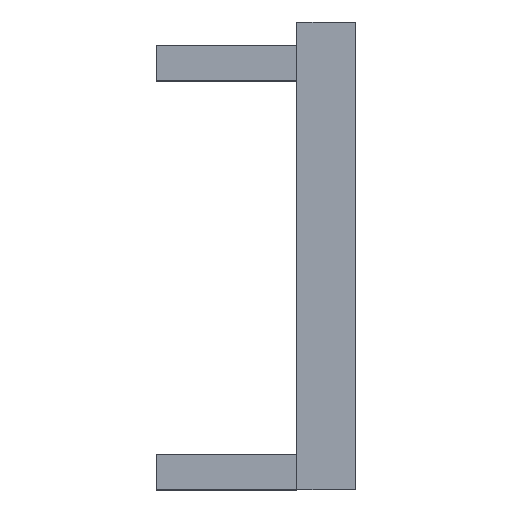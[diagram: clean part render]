
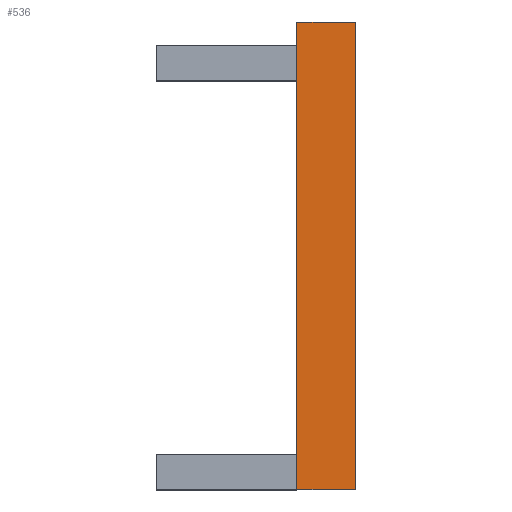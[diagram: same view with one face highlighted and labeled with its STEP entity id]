
A CAD part, top view. The second image highlights one B-rep face of the part: STEP entity #536.
In plain terms, the highlighted planar face has unit normal (0, 0, 1).
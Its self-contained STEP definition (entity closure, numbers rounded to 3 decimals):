
#24 = VERTEX_POINT('',#25);
#25 = CARTESIAN_POINT('',(-10.2,-18.,30.));
#32 = PLANE('',#33);
#33 = AXIS2_PLACEMENT_3D('',#34,#35,#36);
#34 = CARTESIAN_POINT('',(-10.2,-18.,0.));
#35 = DIRECTION('',(-1.,-0.,0.));
#36 = DIRECTION('',(0.,0.,-1.));
#44 = PLANE('',#45);
#45 = AXIS2_PLACEMENT_3D('',#46,#47,#48);
#46 = CARTESIAN_POINT('',(-10.2,-18.,0.));
#47 = DIRECTION('',(-0.,1.,-0.));
#48 = DIRECTION('',(0.,0.,-1.));
#85 = VERTEX_POINT('',#86);
#86 = CARTESIAN_POINT('',(-10.2,22.,30.));
#100 = PLANE('',#101);
#101 = AXIS2_PLACEMENT_3D('',#102,#103,#104);
#102 = CARTESIAN_POINT('',(-10.2,22.,0.));
#103 = DIRECTION('',(-0.,1.,0.));
#104 = DIRECTION('',(0.,0.,-1.));
#112 = EDGE_CURVE('',#24,#85,#113,.T.);
#113 = SURFACE_CURVE('',#114,(#118,#125),.PCURVE_S1.);
#114 = LINE('',#115,#116);
#115 = CARTESIAN_POINT('',(-10.2,-18.,30.));
#116 = VECTOR('',#117,1.);
#117 = DIRECTION('',(-0.,1.,0.));
#118 = PCURVE('',#32,#119);
#119 = DEFINITIONAL_REPRESENTATION('',(#120),#124);
#120 = LINE('',#121,#122);
#121 = CARTESIAN_POINT('',(-30.,-0.));
#122 = VECTOR('',#123,1.);
#123 = DIRECTION('',(-0.,-1.));
#124 = ( GEOMETRIC_REPRESENTATION_CONTEXT(2) 
PARAMETRIC_REPRESENTATION_CONTEXT() REPRESENTATION_CONTEXT('2D SPACE',''
  ) );
#125 = PCURVE('',#126,#131);
#126 = PLANE('',#127);
#127 = AXIS2_PLACEMENT_3D('',#128,#129,#130);
#128 = CARTESIAN_POINT('',(-10.2,-18.,30.));
#129 = DIRECTION('',(0.,0.,1.));
#130 = DIRECTION('',(1.,0.,0.));
#131 = DEFINITIONAL_REPRESENTATION('',(#132),#136);
#132 = LINE('',#133,#134);
#133 = CARTESIAN_POINT('',(0.,-0.));
#134 = VECTOR('',#135,1.);
#135 = DIRECTION('',(-0.,1.));
#136 = ( GEOMETRIC_REPRESENTATION_CONTEXT(2) 
PARAMETRIC_REPRESENTATION_CONTEXT() REPRESENTATION_CONTEXT('2D SPACE',''
  ) );
#314 = EDGE_CURVE('',#24,#315,#317,.T.);
#315 = VERTEX_POINT('',#316);
#316 = CARTESIAN_POINT('',(-15.2,-18.,30.));
#317 = SURFACE_CURVE('',#318,(#322,#329),.PCURVE_S1.);
#318 = LINE('',#319,#320);
#319 = CARTESIAN_POINT('',(-10.2,-18.,30.));
#320 = VECTOR('',#321,1.);
#321 = DIRECTION('',(-1.,-0.,0.));
#322 = PCURVE('',#44,#323);
#323 = DEFINITIONAL_REPRESENTATION('',(#324),#328);
#324 = LINE('',#325,#326);
#325 = CARTESIAN_POINT('',(-30.,-0.));
#326 = VECTOR('',#327,1.);
#327 = DIRECTION('',(-0.,1.));
#328 = ( GEOMETRIC_REPRESENTATION_CONTEXT(2) 
PARAMETRIC_REPRESENTATION_CONTEXT() REPRESENTATION_CONTEXT('2D SPACE',''
  ) );
#329 = PCURVE('',#126,#330);
#330 = DEFINITIONAL_REPRESENTATION('',(#331),#335);
#331 = LINE('',#332,#333);
#332 = CARTESIAN_POINT('',(0.,-0.));
#333 = VECTOR('',#334,1.);
#334 = DIRECTION('',(-1.,0.));
#335 = ( GEOMETRIC_REPRESENTATION_CONTEXT(2) 
PARAMETRIC_REPRESENTATION_CONTEXT() REPRESENTATION_CONTEXT('2D SPACE',''
  ) );
#353 = PLANE('',#354);
#354 = AXIS2_PLACEMENT_3D('',#355,#356,#357);
#355 = CARTESIAN_POINT('',(-15.2,-18.,0.));
#356 = DIRECTION('',(-1.,-0.,0.));
#357 = DIRECTION('',(0.,0.,-1.));
#536 = ADVANCED_FACE('',(#537),#126,.T.);
#537 = FACE_BOUND('',#538,.F.);
#538 = EDGE_LOOP('',(#539,#540,#541,#564));
#539 = ORIENTED_EDGE('',*,*,#112,.F.);
#540 = ORIENTED_EDGE('',*,*,#314,.T.);
#541 = ORIENTED_EDGE('',*,*,#542,.T.);
#542 = EDGE_CURVE('',#315,#543,#545,.T.);
#543 = VERTEX_POINT('',#544);
#544 = CARTESIAN_POINT('',(-15.2,22.,30.));
#545 = SURFACE_CURVE('',#546,(#550,#557),.PCURVE_S1.);
#546 = LINE('',#547,#548);
#547 = CARTESIAN_POINT('',(-15.2,-18.,30.));
#548 = VECTOR('',#549,1.);
#549 = DIRECTION('',(-0.,1.,0.));
#550 = PCURVE('',#126,#551);
#551 = DEFINITIONAL_REPRESENTATION('',(#552),#556);
#552 = LINE('',#553,#554);
#553 = CARTESIAN_POINT('',(-5.,0.));
#554 = VECTOR('',#555,1.);
#555 = DIRECTION('',(-0.,1.));
#556 = ( GEOMETRIC_REPRESENTATION_CONTEXT(2) 
PARAMETRIC_REPRESENTATION_CONTEXT() REPRESENTATION_CONTEXT('2D SPACE',''
  ) );
#557 = PCURVE('',#353,#558);
#558 = DEFINITIONAL_REPRESENTATION('',(#559),#563);
#559 = LINE('',#560,#561);
#560 = CARTESIAN_POINT('',(-30.,-0.));
#561 = VECTOR('',#562,1.);
#562 = DIRECTION('',(-0.,-1.));
#563 = ( GEOMETRIC_REPRESENTATION_CONTEXT(2) 
PARAMETRIC_REPRESENTATION_CONTEXT() REPRESENTATION_CONTEXT('2D SPACE',''
  ) );
#564 = ORIENTED_EDGE('',*,*,#565,.F.);
#565 = EDGE_CURVE('',#85,#543,#566,.T.);
#566 = SURFACE_CURVE('',#567,(#571,#578),.PCURVE_S1.);
#567 = LINE('',#568,#569);
#568 = CARTESIAN_POINT('',(-10.2,22.,30.));
#569 = VECTOR('',#570,1.);
#570 = DIRECTION('',(-1.,-0.,0.));
#571 = PCURVE('',#126,#572);
#572 = DEFINITIONAL_REPRESENTATION('',(#573),#577);
#573 = LINE('',#574,#575);
#574 = CARTESIAN_POINT('',(0.,40.));
#575 = VECTOR('',#576,1.);
#576 = DIRECTION('',(-1.,0.));
#577 = ( GEOMETRIC_REPRESENTATION_CONTEXT(2) 
PARAMETRIC_REPRESENTATION_CONTEXT() REPRESENTATION_CONTEXT('2D SPACE',''
  ) );
#578 = PCURVE('',#100,#579);
#579 = DEFINITIONAL_REPRESENTATION('',(#580),#584);
#580 = LINE('',#581,#582);
#581 = CARTESIAN_POINT('',(-30.,-0.));
#582 = VECTOR('',#583,1.);
#583 = DIRECTION('',(-0.,1.));
#584 = ( GEOMETRIC_REPRESENTATION_CONTEXT(2) 
PARAMETRIC_REPRESENTATION_CONTEXT() REPRESENTATION_CONTEXT('2D SPACE',''
  ) );
